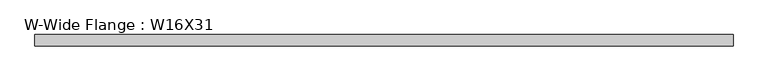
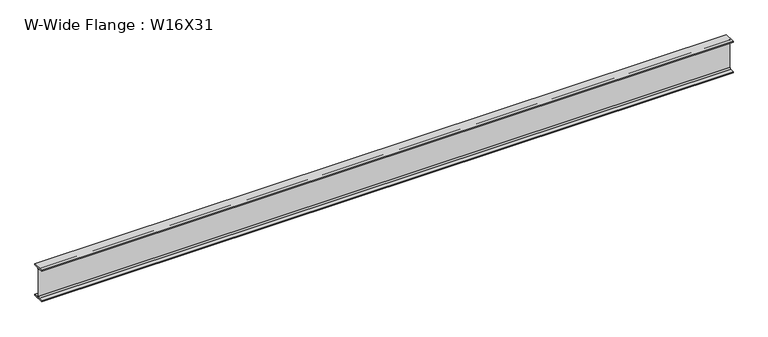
"""IFC4 building model written with IfcOpenShell, lengths in millimetres: beam geometry, W-Wide Flange : W16X31."""

import ifcopenshell
import ifcopenshell.guid

model = None  # the IFC model being written
_history = None  # IfcOwnerHistory: only IFC2X3 demands one
_inside = {}  # id of a spatial element -> (the spatial element, [elements in it])
_under = {}  # id of a project, library or spatial element -> (it, [spatial elements below it])
_declared = {}  # id of a project -> (the project, [libraries it declares])
_typed = {}  # id of a type object -> (the type object, [elements of that type])
_made_of = {}  # id of a material, layer set ... -> (it, [elements and type objects made of it])


def new_model(schema):
    """Start an empty IFC model of exactly this schema.

    Asked for "IFC4X3", IfcOpenShell would pick the latest addendum, in which some entities
    have other attributes; the version numbers below select the first issue.
    IFC2X3 requires an IfcOwnerHistory on every rooted entity: one is made here for all.
    """
    global model, _history
    if schema == "IFC4X3":
        model = ifcopenshell.file(schema_version=(4, 3, 0, 0))
    else:
        model = ifcopenshell.file(schema=schema)
    _inside.clear()
    _under.clear()
    _declared.clear()
    _typed.clear()
    _made_of.clear()
    _history = None
    if model.schema == "IFC2X3":
        org = make("IfcOrganization", Name="unknown")
        user = make(
            "IfcPersonAndOrganization",
            ThePerson=make("IfcPerson", FamilyName="unknown"),
            TheOrganization=org,
        )
        app = make(
            "IfcApplication",
            ApplicationDeveloper=org,
            Version="unknown",
            ApplicationFullName="unknown",
            ApplicationIdentifier="unknown",
        )
        _history = make(
            "IfcOwnerHistory",
            OwningUser=user,
            OwningApplication=app,
            ChangeAction="ADDED",
            CreationDate=0,
        )
    return model


def make(cls, **values):
    """One entity of the class cls with the attributes given. An attribute that is None is left unset."""
    return model.create_entity(
        cls, **{name: value for name, value in values.items() if value is not None}
    )


def rooted(cls, **values):
    """An entity with a GlobalId (a new one), such as an element, a storey or a relation."""
    return make(cls, GlobalId=ifcopenshell.guid.new(), OwnerHistory=_history, **values)


def si_unit(unit_type, name, prefix=None):
    """IfcSIUnit, for example si_unit("LENGTHUNIT", "METRE", prefix="MILLI")."""
    return make("IfcSIUnit", UnitType=unit_type, Prefix=prefix, Name=name)


def assignment(units):
    """IfcUnitAssignment: the units of a project."""
    return None if units is None else make("IfcUnitAssignment", Units=units)


def point(xyz):
    """IfcCartesianPoint."""
    return None if xyz is None else make("IfcCartesianPoint", Coordinates=xyz)


def direction(xyz):
    """IfcDirection."""
    return None if xyz is None else make("IfcDirection", DirectionRatios=xyz)


def frame(location, z_axis=None, x_axis=None):
    """IfcAxis2Placement3D, a coordinate frame: its origin and axes. An axis left out is left unset."""
    return make(
        "IfcAxis2Placement3D",
        Location=point(location),
        Axis=direction(z_axis),
        RefDirection=direction(x_axis),
    )


def frame_2d(location, x_axis=None):
    """IfcAxis2Placement2D, a coordinate frame in the plane: its origin and x axis."""
    return make(
        "IfcAxis2Placement2D", Location=point(location), RefDirection=direction(x_axis)
    )


def origin():
    """The frame at (0, 0, 0) with its axes left unset."""
    return frame((0.0, 0.0, 0.0))


def place(relative_to, where):
    """IfcLocalPlacement: puts the frame where relative to a parent placement (None: the world)."""
    return make(
        "IfcLocalPlacement", PlacementRelTo=relative_to, RelativePlacement=where
    )


def context(
    kind, dimensions, precision=None, world=None, true_north=None, identifier=None
):
    """IfcGeometricRepresentationContext, for example the 3D "Model" context."""
    return make(
        "IfcGeometricRepresentationContext",
        ContextIdentifier=identifier,
        ContextType=kind,
        CoordinateSpaceDimension=dimensions,
        Precision=precision,
        WorldCoordinateSystem=world,
        TrueNorth=true_north,
    )


def project(units=None, contexts=None):
    """IfcProject with its units and contexts."""
    return rooted(
        "IfcProject",
        Name="project",
        RepresentationContexts=contexts,
        UnitsInContext=assignment(units),
    )


def spatial(cls, under=None, at=None, **own):
    """A site, building, storey or space (cls), placed at a placement, below another one or the project."""
    s = rooted(cls, ObjectPlacement=at, **own)
    if under is not None:
        _under.setdefault(under.id(), (under, []))[1].append(s)
    return s


def polyline(points):
    """IfcPolyline through the points."""
    return make("IfcPolyline", Points=[point(p) for p in points])


def circle_curve(where, radius):
    """IfcCircle in the frame where."""
    return make("IfcCircle", Position=where, Radius=radius)


def trimmed(basis, trim1, trim2, sense, master):
    """IfcTrimmedCurve: the piece of a basis curve between two trims."""
    return make(
        "IfcTrimmedCurve",
        BasisCurve=basis,
        Trim1=trim1,
        Trim2=trim2,
        SenseAgreement=sense,
        MasterRepresentation=master,
    )


def segment(curve, same_sense, transition):
    """IfcCompositeCurveSegment."""
    return make(
        "IfcCompositeCurveSegment",
        Transition=transition,
        SameSense=same_sense,
        ParentCurve=curve,
    )


def composite_curve(segments, self_intersect=None):
    """IfcCompositeCurve: segments joined end to end."""
    return make("IfcCompositeCurve", Segments=segments, SelfIntersect=self_intersect)


def outline(outer, holes=None, kind="AREA"):
    """IfcArbitraryClosedProfileDef: a profile drawn as a closed curve; with holes, ...WithVoids."""
    if holes is None:
        return make("IfcArbitraryClosedProfileDef", ProfileType=kind, OuterCurve=outer)
    return make(
        "IfcArbitraryProfileDefWithVoids",
        ProfileType=kind,
        OuterCurve=outer,
        InnerCurves=holes,
    )


def extrude(swept, where, along, depth):
    """IfcExtrudedAreaSolid: the profile swept, set in the frame where, extruded along a direction by depth."""
    return make(
        "IfcExtrudedAreaSolid",
        SweptArea=swept,
        Position=where,
        ExtrudedDirection=direction(along),
        Depth=depth,
    )


def shape(context_of_items, identifier, shape_type, items):
    """IfcShapeRepresentation: the items that make up one representation, for example the "Body"."""
    return make(
        "IfcShapeRepresentation",
        ContextOfItems=context_of_items,
        RepresentationIdentifier=identifier,
        RepresentationType=shape_type,
        Items=items,
    )


def source(mapping_origin, context_of_items, identifier, shape_type, items):
    """IfcRepresentationMap: a shape defined once, which mapped items show again and again."""
    return make(
        "IfcRepresentationMap",
        MappingOrigin=mapping_origin,
        MappedRepresentation=shape(context_of_items, identifier, shape_type, items),
    )


def transform(
    local_origin,
    x_axis=None,
    y_axis=None,
    z_axis=None,
    scale=None,
    scale2=None,
    scale3=None,
    uniform=True,
):
    """IfcCartesianTransformationOperator3D, or its non-uniform kind. x_axis, y_axis, z_axis: its Axis1, 2, 3."""
    if uniform:
        return make(
            "IfcCartesianTransformationOperator3D",
            Axis1=direction(x_axis),
            Axis2=direction(y_axis),
            LocalOrigin=point(local_origin),
            Scale=scale,
            Axis3=direction(z_axis),
        )
    return make(
        "IfcCartesianTransformationOperator3DnonUniform",
        Axis1=direction(x_axis),
        Axis2=direction(y_axis),
        LocalOrigin=point(local_origin),
        Scale=scale,
        Axis3=direction(z_axis),
        Scale2=scale2,
        Scale3=scale3,
    )


def mapped(mapping_source, mapping_target):
    """IfcMappedItem: shows the shape of a source again, moved by a transform."""
    return make(
        "IfcMappedItem", MappingSource=mapping_source, MappingTarget=mapping_target
    )


def made_of(thing, what):
    """Note that an element or type object is made of a material, layer set ...; save() writes the relation."""
    if what is not None:
        _made_of.setdefault(what.id(), (what, []))[1].append(thing)
    return thing


def element(
    cls,
    number,
    at=None,
    inside=None,
    cuts=None,
    type_object=None,
    material=None,
    context=None,
    identifier="Body",
    shape_type=None,
    held_by="IfcProductDefinitionShape",
    body=None,
    shapes=None,
    **own,
):
    """One element of the class cls, such as IfcWall. Its Tag is "e" and its number.

    at: its placement. inside: the storey or other place that contains it. cuts: it is an
    opening in that element (IfcRelVoidsElement). A single representation is given by context,
    identifier, shape_type and body (its items); several are given by shapes. held_by: the class
    of the entity that holds the representations. save() writes the other relations.
    """
    e = rooted(cls, Tag="e%d" % number, ObjectPlacement=at, **own)
    if body is not None:
        shapes = [shape(context, identifier, shape_type, body)]
    if shapes is not None:
        e.Representation = make(held_by, Representations=shapes)
    if inside is not None:
        _inside.setdefault(inside.id(), (inside, []))[1].append(e)
    if cuts is not None:
        rooted(
            "IfcRelVoidsElement", RelatingBuildingElement=cuts, RelatedOpeningElement=e
        )
    if type_object is not None:
        _typed.setdefault(type_object.id(), (type_object, []))[1].append(e)
    return made_of(e, material)


def aggregate(whole, parts):
    """IfcRelAggregates: a whole, such as a stair, and the parts it consists of."""
    return rooted("IfcRelAggregates", RelatingObject=whole, RelatedObjects=parts)


def save(model, path):
    """Write the relations noted so far, then the file.

    IfcRelAggregates (storeys below a building ...), IfcRelContainedInSpatialStructure (elements
    in a storey), IfcRelDefinesByType, IfcRelAssociatesMaterial and IfcRelDeclares: one each for
    every whole, place, type object, material and project.
    """
    for whole, parts in _under.values():
        aggregate(whole, parts)
    for where, things in _inside.values():
        rooted(
            "IfcRelContainedInSpatialStructure",
            RelatedElements=things,
            RelatingStructure=where,
        )
    for kind, things in _typed.values():
        rooted("IfcRelDefinesByType", RelatedObjects=things, RelatingType=kind)
    for what, things in _made_of.values():
        rooted("IfcRelAssociatesMaterial", RelatedObjects=things, RelatingMaterial=what)
    for by, libraries in _declared.values():
        rooted("IfcRelDeclares", RelatingContext=by, RelatedDefinitions=libraries)
    model.write(path)


def w_wide_flange_w16x31_951fd6ce(model_context):
    return source(origin(), model_context, "Body", "SweptSolid", [
        extrude(outline(composite_curve([segment(polyline([(70.231, -190.754), (70.231, -201.93), (-70.231, -201.93), (-70.231, -190.754), (-20.8915, -190.754)]), True, "CONTINUOUS"), segment(trimmed(circle_curve(frame_2d((-20.8915, -173.355)), 17.399), [point((-20.8915, -190.754))], [point((-3.4925, -173.355))], True, "CARTESIAN"), True, "CONTINUOUS"), segment(polyline([(-3.4925, -173.355), (-3.4925, 173.355)]), True, "CONTINUOUS"), segment(trimmed(circle_curve(frame_2d((-20.8915, 173.355)), 17.399), [point((-3.4925, 173.355))], [point((-20.8915, 190.754))], True, "CARTESIAN"), True, "CONTINUOUS"), segment(polyline([(-20.8915, 190.754), (-70.231, 190.754), (-70.231, 201.93), (70.231, 201.93), (70.231, 190.754), (20.8915, 190.754)]), True, "CONTINUOUS"), segment(trimmed(circle_curve(frame_2d((20.8915, 173.355)), 17.399), [point((20.8915, 190.754))], [point((3.4925, 173.355))], True, "CARTESIAN"), True, "CONTINUOUS"), segment(polyline([(3.4925, 173.355), (3.4925, -173.355)]), True, "CONTINUOUS"), segment(trimmed(circle_curve(frame_2d((20.8915, -173.355)), 17.399), [point((3.4925, -173.355))], [point((20.8915, -190.754))], True, "CARTESIAN"), True, "CONTINUOUS"), segment(polyline([(20.8915, -190.754), (70.231, -190.754)]), True, "CONTINUOUS")], self_intersect=False)), frame((-4221.9066406, 0.0, 0.0), z_axis=(1.0, 0.0, 0.0), x_axis=(0.0, 1.0, 0.0)), (0.0, 0.0, 1.0), 8493.8195313),
    ])


if __name__ == "__main__":
    model = new_model("IFC4")
    model_context = context("Model", 3, world=origin())
    ifc_project = project(units=[si_unit("LENGTHUNIT", "METRE", prefix="MILLI")], contexts=[model_context])
    site = spatial("IfcSite", under=ifc_project)
    building = spatial("IfcBuilding", under=site)
    placement = place(None, origin())
    w_wide_flange_w16x31_shape = w_wide_flange_w16x31_951fd6ce(model_context)
    element("IfcBeam", 1, ObjectType="W-Wide Flange : W16X31", at=placement, inside=building, context=model_context, shape_type="MappedRepresentation", body=[
        mapped(w_wide_flange_w16x31_shape, transform((0.0, 0.0, 0.0), x_axis=(1.0, 0.0, 0.0), y_axis=(0.0, 1.0, 0.0), z_axis=(0.0, 0.0, 1.0))),
    ])
    save(model, "model.ifc")
